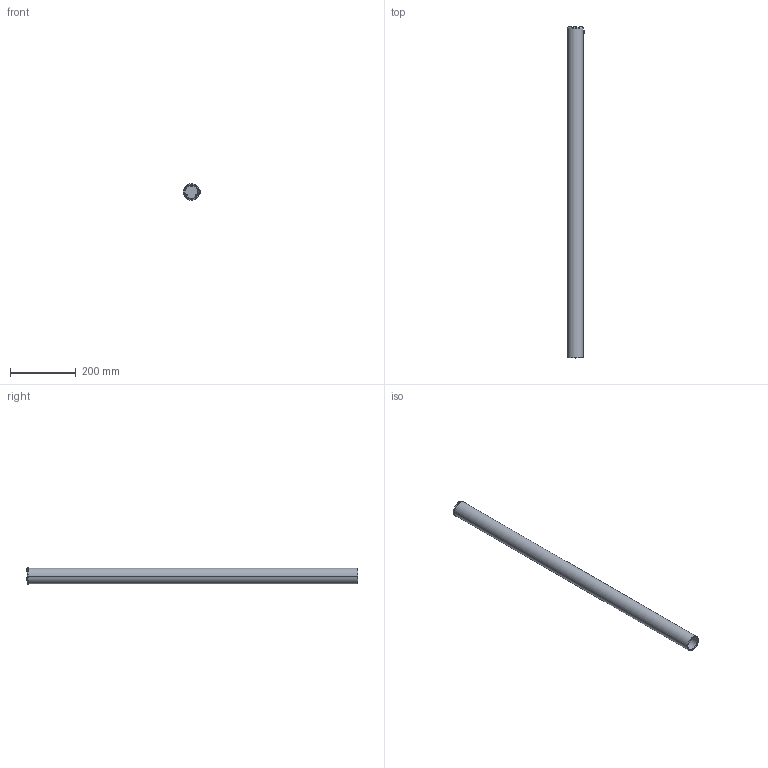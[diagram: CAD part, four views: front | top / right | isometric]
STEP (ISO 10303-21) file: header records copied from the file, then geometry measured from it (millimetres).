
FILE_DESCRIPTION((''),'2;1');
FILE_NAME('9806000217_ASM','2023-03-27T14:29:32',('Stephanie.Hoppe'),(''),'CREO PARAMETRIC BY PTC INC, 2022124','CREO PARAMETRIC BY PTC INC, 2022124','');
FILE_SCHEMA(('AUTOMOTIVE_DESIGN { 1 0 10303 214 1 1 1 1 }'));
Length unit declared in the file: millimetre
Products named in the file (11): 9205001000_AF0; 9521254000_ASM; 9511000106; 9511000106_DICHTUNG; 9511000106_ASM; 9231828000; 9261281000; 9806000149_ASM; 9231530000; 9261332000; 9806000217_ASM
Assembly tree (14 placements, depth 4):
  9806000217_ASM
    9521254000_ASM
      9205001000_AF0
    9806000149_ASM
      9511000106_ASM
        9511000106
        9511000106_DICHTUNG
      9231828000  x3
      9261281000  x3
    9231530000
    9261332000
Bounding box: 53.5 x 1007.7 x 50 mm (x, y, z)
Volume: 566555.4 mm3; surface area: 287365.8 mm2
Topology: 11 solids, 16 shells, 255 faces, 591 edges, 373 vertices
Faces by surface type: cylinder 108, torus 56, cone 46, plane 39, sphere 6
Entity records: 11327 total; most frequent: CARTESIAN_POINT 1307, DIRECTION 1147, PROPERTY_DEFINITION 678, REPRESENTATION 669, PROPERTY_DEFINITION_REPRESENTATION 669, ORIENTED_EDGE 620, DESCRIPTIVE_REPRESENTATION_ITEM 567, GENERAL_PROPERTY 559
